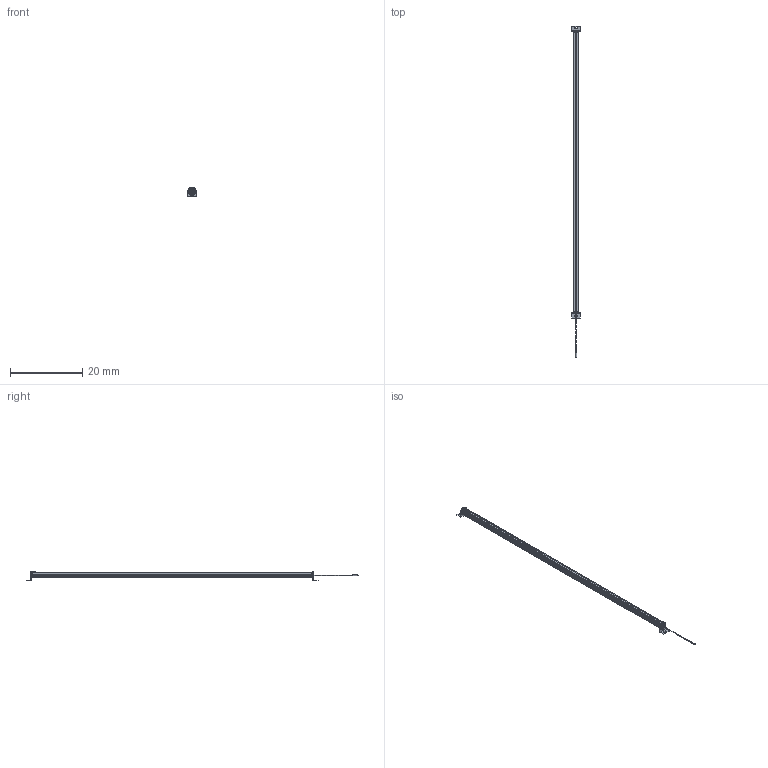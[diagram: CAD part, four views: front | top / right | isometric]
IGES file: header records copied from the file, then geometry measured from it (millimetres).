
Start section:  Autodesk DirectConnect version 7.0.27.0 ---- IGES version 5.3
Global section: file name: C:\ACADFILES\SS_PYLONS\CUSTOMER_FILES\SS-76-PYLON_3D_SMB.iges; native system: Autodesk DirectConnect 7.0.27.0; preprocessor: 7.0.27.0; author: ENGINEERMAIN; organization: Unknown; date: 20150810.130217; units: millimetre
Bounding box: 2.26 x 92.01 x 2.75 mm (x, y, z)
Surface area: 1181.2 mm2 (no closed solid volume)
Topology: 0 solids, 0 shells, 754 faces, 3833 edges, 3829 vertices
Faces by surface type: bspline 754
